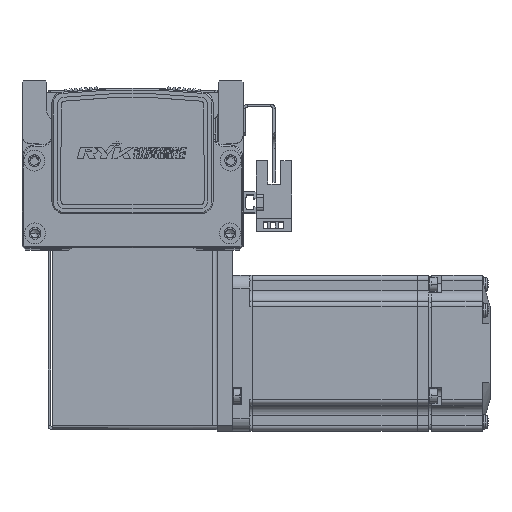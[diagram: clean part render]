
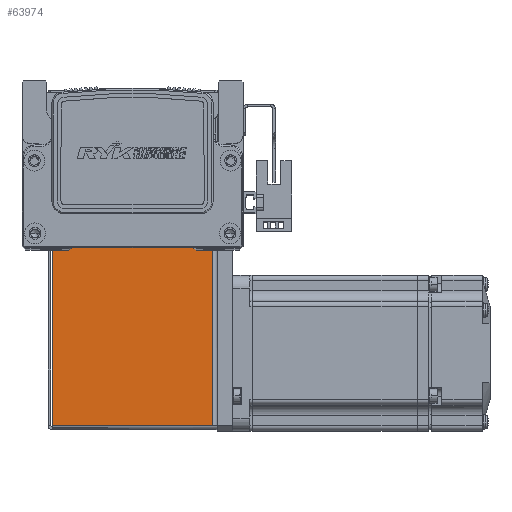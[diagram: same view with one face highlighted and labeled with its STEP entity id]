
A CAD part, top view. The second image highlights one B-rep face of the part: STEP entity #63974.
In plain terms, the highlighted planar face has unit normal (0, 0, 1).
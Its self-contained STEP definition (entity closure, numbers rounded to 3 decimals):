
#2501 = ORIENTED_EDGE ( 'NONE', *, *, #3638, .F. ) ;
#2564 = ORIENTED_EDGE ( 'NONE', *, *, #3608, .F. ) ;
#2570 = ORIENTED_EDGE ( 'NONE', *, *, #3617, .T. ) ;
#2607 = ORIENTED_EDGE ( 'NONE', *, *, #3651, .T. ) ;
#3608 = EDGE_CURVE ( 'NONE', #16043, #16024, #43106, .T. ) ;
#3617 = EDGE_CURVE ( 'NONE', #16043, #16034, #43101, .T. ) ;
#3638 = EDGE_CURVE ( 'NONE', #16024, #16067, #43177, .T. ) ;
#3651 = EDGE_CURVE ( 'NONE', #16034, #16067, #43203, .T. ) ;
#5792 = AXIS2_PLACEMENT_3D ( 'NONE', #8309, #8263, #8303 ) ;
#7007 = FACE_OUTER_BOUND ( 'NONE', #40301, .T. ) ;
#8263 = DIRECTION ( 'NONE',  ( 0., 0., -1. ) ) ;
#8302 = PLANE ( 'NONE',  #5792 ) ;
#8303 = DIRECTION ( 'NONE',  ( -1., 0., 0. ) ) ;
#8309 = CARTESIAN_POINT ( 'NONE',  ( 0., 0., 35. ) ) ;
#16024 = VERTEX_POINT ( 'NONE', #58226 ) ;
#16034 = VERTEX_POINT ( 'NONE', #58256 ) ;
#16043 = VERTEX_POINT ( 'NONE', #58238 ) ;
#16067 = VERTEX_POINT ( 'NONE', #58362 ) ;
#40301 = EDGE_LOOP ( 'NONE', ( #2570, #2607, #2501, #2564 ) ) ;
#43101 = LINE ( 'NONE', #51062, #43154 ) ;
#43106 = LINE ( 'NONE', #50955, #43142 ) ;
#43142 = VECTOR ( 'NONE', #51001, 1000. ) ;
#43154 = VECTOR ( 'NONE', #51093, 1000. ) ;
#43177 = LINE ( 'NONE', #51206, #43188 ) ;
#43188 = VECTOR ( 'NONE', #51330, 1000. ) ;
#43203 = LINE ( 'NONE', #51343, #43214 ) ;
#43214 = VECTOR ( 'NONE', #51482, 1000. ) ;
#50955 = CARTESIAN_POINT ( 'NONE',  ( -32.5, 0.737, 35. ) ) ;
#51001 = DIRECTION ( 'NONE',  ( -1., 0., 0. ) ) ;
#51062 = CARTESIAN_POINT ( 'NONE',  ( 30.763, 0.737, 35. ) ) ;
#51093 = DIRECTION ( 'NONE',  ( 0., 1., 0. ) ) ;
#51206 = CARTESIAN_POINT ( 'NONE',  ( -30.793, 0., 35. ) ) ;
#51330 = DIRECTION ( 'NONE',  ( 0., 1., 0. ) ) ;
#51343 = CARTESIAN_POINT ( 'NONE',  ( 0., 72.5, 35. ) ) ;
#51482 = DIRECTION ( 'NONE',  ( -1., 0., 0. ) ) ;
#58226 = CARTESIAN_POINT ( 'NONE',  ( -30.793, 0.737, 35. ) ) ;
#58238 = CARTESIAN_POINT ( 'NONE',  ( 30.763, 0.737, 35. ) ) ;
#58256 = CARTESIAN_POINT ( 'NONE',  ( 30.763, 72.5, 35. ) ) ;
#58362 = CARTESIAN_POINT ( 'NONE',  ( -30.793, 72.5, 35. ) ) ;
#63974 = ADVANCED_FACE ( 'NONE', ( #7007 ), #8302, .F. ) ;
